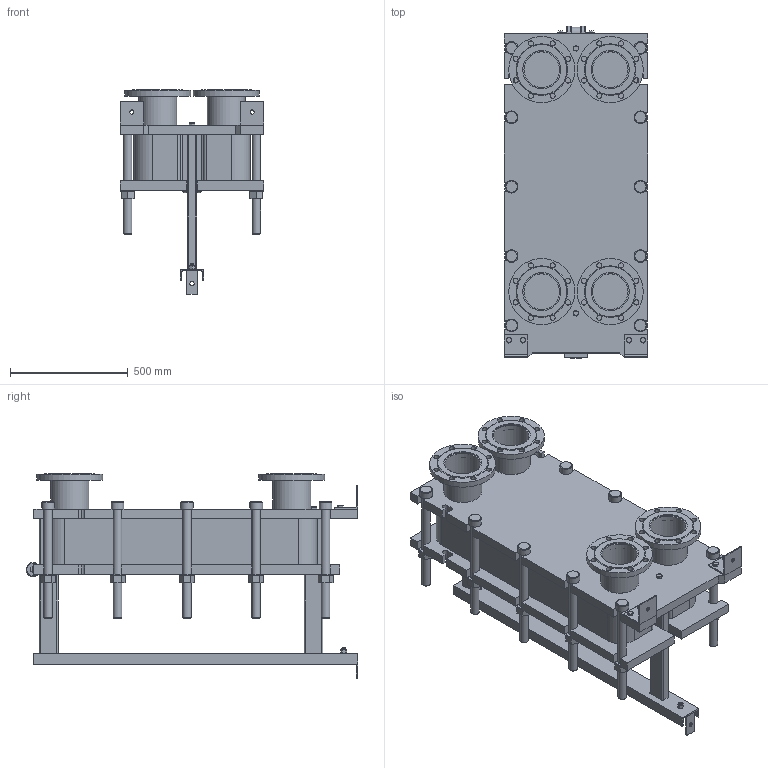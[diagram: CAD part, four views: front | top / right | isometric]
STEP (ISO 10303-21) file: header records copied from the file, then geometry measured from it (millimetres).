
FILE_DESCRIPTION(/* description */ (''),/* implementation_level */ '2;1');
FILE_NAME(/* name */ 'C:\Users\zhuro\Desktop\ENCO\TO\ЭН-041\ЭН-0,5-041-57-1.stp',/* time_stamp */ '2022-06-06T10:53:44+03:00',/* author */ ('zhuro'),/* organization */ (''),/* preprocessor_version */ 'ST-DEVELOPER v18.1',/* originating_system */ 'Autodesk Inventor 2022',/* authorisation */ '');
FILE_SCHEMA (('AUTOMOTIVE_DESIGN { 1 0 10303 214 3 1 1 }'));
Length unit declared in the file: millimetre
Products named in the file (1): ЭН-0,5-041-57-1
Bounding box: 610 x 1406.5 x 867.5 mm (x, y, z)
Volume: 188054722.7 mm3; surface area: 8076396.4 mm2
Topology: 52 solids, 52 shells, 711 faces, 1696 edges, 1094 vertices
Faces by surface type: plane 487, cylinder 177, cone 41, torus 6
Full cylindrical faces by diameter (mm): 8 x4, 10 x2, 16 x8, 18 x3, 22 x32, 36 x24, 50 x1, 54 x10, 60 x12, 151 x4, 161 x8, 280 x4
Entity records: 22667 total; most frequent: CARTESIAN_POINT 5230, DIRECTION 3644, ORIENTED_EDGE 3392, EDGE_CURVE 1696, AXIS2_PLACEMENT_3D 1272, LINE 1100, VECTOR 1100, VERTEX_POINT 1094
